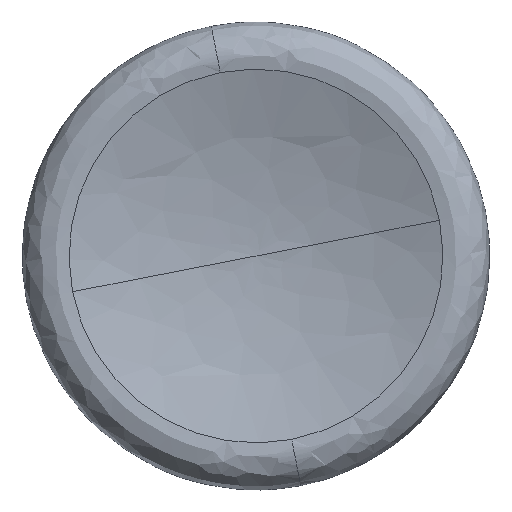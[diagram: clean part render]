
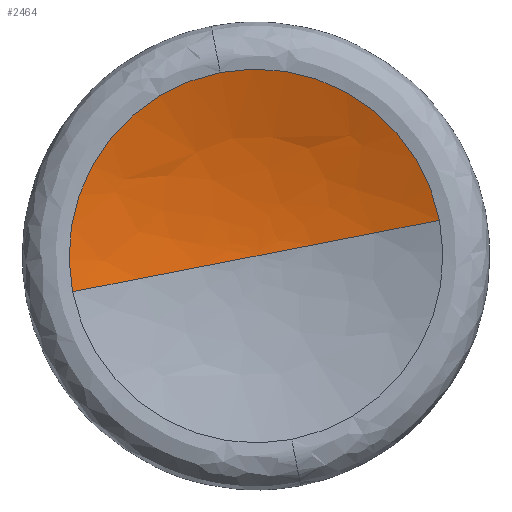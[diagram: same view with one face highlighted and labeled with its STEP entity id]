
A CAD part, front view. The second image highlights one B-rep face of the part: STEP entity #2464.
In plain terms, the highlighted free-form (B-spline) face has degree [3, 3] with [4, 4] control points.
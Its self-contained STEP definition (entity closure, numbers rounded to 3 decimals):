
#10 = CARTESIAN_POINT ( 'NONE',  ( -76.344, -160.48, -14.867 ) ) ;
#18 = CARTESIAN_POINT ( 'NONE',  ( 0., -160.48, 0. ) ) ;
#173 = CARTESIAN_POINT ( 'NONE',  ( 155.966, -173.364, 30.372 ) ) ;
#200 = EDGE_CURVE ( 'NONE', #1087, #426, #1543, .T. ) ;
#358 = CARTESIAN_POINT ( 'NONE',  ( 0., -160.48, 0. ) ) ;
#374 = AXIS2_PLACEMENT_3D ( 'NONE', #456, #631, #2907 ) ;
#426 = VERTEX_POINT ( 'NONE', #2092 ) ;
#456 = CARTESIAN_POINT ( 'NONE',  ( 0., -202.762, 0. ) ) ;
#459 = CARTESIAN_POINT ( 'NONE',  ( 95.221, -173.364, 342.304 ) ) ;
#536 = EDGE_CURVE ( 'NONE', #3258, #426, #2053, .T. ) ;
#588 = EDGE_CURVE ( 'NONE', #2084, #1087, #2489, .T. ) ;
#631 = DIRECTION ( 'NONE',  ( 0., 1., 0. ) ) ;
#635 = CARTESIAN_POINT ( 'NONE',  ( -106.078, -160.48, 137.82 ) ) ;
#820 = CARTESIAN_POINT ( 'NONE',  ( 0., -160.48, 0. ) ) ;
#866 = CARTESIAN_POINT ( 'NONE',  ( -155.966, -173.364, -30.372 ) ) ;
#998 = CARTESIAN_POINT ( 'NONE',  ( 0., -160.48, 0. ) ) ;
#1018 = CARTESIAN_POINT ( 'NONE',  ( 76.344, -160.48, 14.867 ) ) ;
#1087 = VERTEX_POINT ( 'NONE', #2213 ) ;
#1104 = CARTESIAN_POINT ( 'NONE',  ( -326.776, -202.762, 424.561 ) ) ;
#1219 = CARTESIAN_POINT ( 'NONE',  ( 0., -160.48, 0. ) ) ;
#1298 = EDGE_LOOP ( 'NONE', ( #2056, #3920, #2518, #3633 ) ) ;
#1302 = CARTESIAN_POINT ( 'NONE',  ( 0., -160.48, 0. ) ) ;
#1465 = CARTESIAN_POINT ( 'NONE',  ( 76.344, -160.48, 14.867 ) ) ;
#1543 =( BOUNDED_CURVE ( )  B_SPLINE_CURVE ( 3, ( #2531, #1880, #1018, #18 ),
 .UNSPECIFIED., .F., .F. ) 
 B_SPLINE_CURVE_WITH_KNOTS ( ( 4, 4 ),
 ( 0.85, 1. ),
 .UNSPECIFIED. ) 
 CURVE ( )  GEOMETRIC_REPRESENTATION_ITEM ( )  RATIONAL_B_SPLINE_CURVE ( ( 0.745, 0.815, 0.9, 1. ) ) 
 REPRESENTATION_ITEM ( '' )  );
#1556 = CARTESIAN_POINT ( 'NONE',  ( 46.61, -160.48, 167.554 ) ) ;
#1815 = CARTESIAN_POINT ( 'NONE',  ( 143.583, -202.762, 516.157 ) ) ;
#1822 = CARTESIAN_POINT ( 'NONE',  ( 235.179, -202.762, 45.798 ) ) ;
#1853 = CIRCLE ( 'NONE', #374, 239.597 ) ;
#1880 = CARTESIAN_POINT ( 'NONE',  ( 155.966, -173.364, 30.372 ) ) ;
#2040 = CARTESIAN_POINT ( 'NONE',  ( -235.179, -202.762, -45.798 ) ) ;
#2053 =( BOUNDED_CURVE ( )  B_SPLINE_CURVE ( 3, ( #2040, #866, #3379, #358 ),
 .UNSPECIFIED., .F., .F. ) 
 B_SPLINE_CURVE_WITH_KNOTS ( ( 4, 4 ),
 ( 0.85, 1. ),
 .UNSPECIFIED. ) 
 CURVE ( )  GEOMETRIC_REPRESENTATION_ITEM ( )  RATIONAL_B_SPLINE_CURVE ( ( 0.745, 0.815, 0.9, 1. ) ) 
 REPRESENTATION_ITEM ( '' )  );
#2056 = ORIENTED_EDGE ( 'NONE', *, *, #3672, .F. ) ;
#2084 = VERTEX_POINT ( 'NONE', #4284 ) ;
#2092 = CARTESIAN_POINT ( 'NONE',  ( 0., -160.48, 0. ) ) ;
#2213 = CARTESIAN_POINT ( 'NONE',  ( 235.179, -202.762, 45.798 ) ) ;
#2322 = CARTESIAN_POINT ( 'NONE',  ( -235.179, -202.762, -45.798 ) ) ;
#2354 = DIRECTION ( 'NONE',  ( -0.191, 0., 0.982 ) ) ;
#2421 = CARTESIAN_POINT ( 'NONE',  ( 0., -202.762, 0. ) ) ;
#2464 = ADVANCED_FACE ( 'NONE', ( #3875 ), #3699, .T. ) ;
#2489 = CIRCLE ( 'NONE', #3310, 239.597 ) ;
#2518 = ORIENTED_EDGE ( 'NONE', *, *, #200, .F. ) ;
#2531 = CARTESIAN_POINT ( 'NONE',  ( 235.179, -202.762, 45.798 ) ) ;
#2581 = CARTESIAN_POINT ( 'NONE',  ( -216.711, -173.364, 281.559 ) ) ;
#2700 = CARTESIAN_POINT ( 'NONE',  ( -235.179, -202.762, -45.798 ) ) ;
#2907 = DIRECTION ( 'NONE',  ( -0.191, 0., 0.982 ) ) ;
#3258 = VERTEX_POINT ( 'NONE', #2322 ) ;
#3310 = AXIS2_PLACEMENT_3D ( 'NONE', #2421, #3439, #2354 ) ;
#3379 = CARTESIAN_POINT ( 'NONE',  ( -76.344, -160.48, -14.867 ) ) ;
#3439 = DIRECTION ( 'NONE',  ( 0., 1., 0. ) ) ;
#3633 = ORIENTED_EDGE ( 'NONE', *, *, #588, .F. ) ;
#3647 = CARTESIAN_POINT ( 'NONE',  ( -155.966, -173.364, -30.372 ) ) ;
#3672 = EDGE_CURVE ( 'NONE', #3258, #2084, #1853, .T. ) ;
#3699 =( BOUNDED_SURFACE ( )  B_SPLINE_SURFACE ( 3, 3, ( 
 ( #2700, #1104, #1815, #1822 ),
 ( #3647, #2581, #459, #173 ),
 ( #10, #635, #1556, #1465 ),
 ( #1302, #1219, #998, #820 ) ),
 .UNSPECIFIED., .F., .F., .F. ) 
 B_SPLINE_SURFACE_WITH_KNOTS ( ( 4, 4 ),
 ( 4, 4 ),
 ( 0.85, 1. ),
 ( 0., 1. ),
 .UNSPECIFIED. ) 
 GEOMETRIC_REPRESENTATION_ITEM ( )  RATIONAL_B_SPLINE_SURFACE ( (
 ( 0.745, 0.248, 0.248, 0.745),
 ( 0.815, 0.272, 0.272, 0.815),
 ( 0.9, 0.3, 0.3, 0.9),
 ( 1., 0.333, 0.333, 1.) ) ) 
 REPRESENTATION_ITEM ( '' )  SURFACE ( )  );
#3875 = FACE_OUTER_BOUND ( 'NONE', #1298, .T. ) ;
#3920 = ORIENTED_EDGE ( 'NONE', *, *, #536, .T. ) ;
#4284 = CARTESIAN_POINT ( 'NONE',  ( -45.798, -202.762, 235.179 ) ) ;
